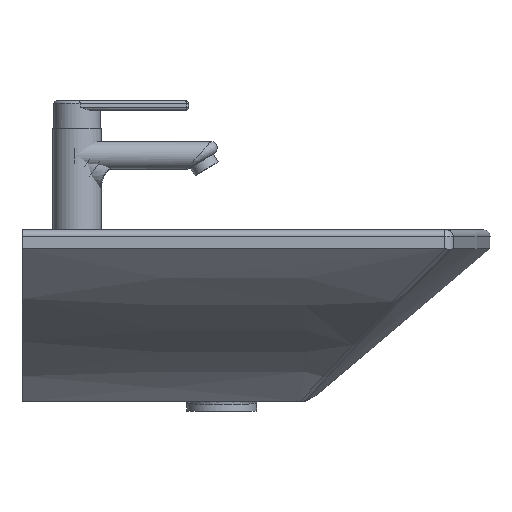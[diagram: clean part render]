
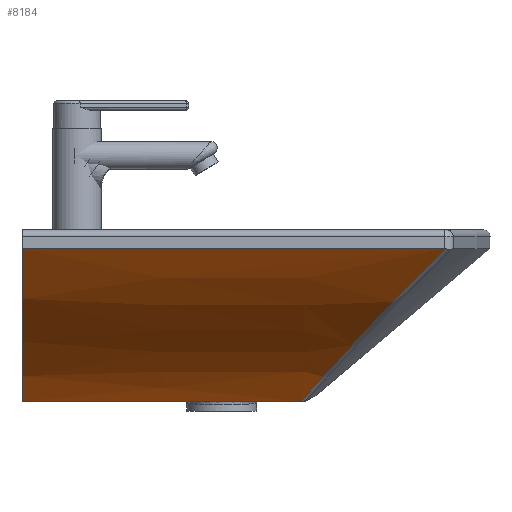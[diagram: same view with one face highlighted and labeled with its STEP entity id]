
A CAD part, left-side view. The second image highlights one B-rep face of the part: STEP entity #8184.
In plain terms, the highlighted free-form (B-spline) face has degree [3, 3] with [10, 4] control points.
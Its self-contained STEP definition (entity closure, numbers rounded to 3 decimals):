
#521=CARTESIAN_POINT('',(-111.343,0.,-164.579));
#522=VERTEX_POINT('',#521);
#532=CARTESIAN_POINT('',(-350.,0.0,0.0));
#533=VERTEX_POINT('',#532);
#534=CARTESIAN_POINT('',(36.624,0.0,305.317));
#535=DIRECTION('',(0.0,1.,0.0));
#536=DIRECTION('',(-0.298,0.0,-0.955));
#537=AXIS2_PLACEMENT_3D('',#534,#535,#536);
#538=CIRCLE('',#537,492.643);
#539=EDGE_CURVE('',#522,#533,#538,.T.);
#6153=CARTESIAN_POINT('',(-109.072,-300.052,-164.371));
#6154=VERTEX_POINT('',#6153);
#6230=CARTESIAN_POINT('',(-109.072,-300.052,-164.371));
#6231=CARTESIAN_POINT('',(-109.831,-200.035,-164.44));
#6232=CARTESIAN_POINT('',(-110.588,-100.017,-164.509));
#6233=CARTESIAN_POINT('',(-111.343,0.,-164.579));
#6234=B_SPLINE_CURVE_WITH_KNOTS('',3,(#6230,#6231,#6232,#6233),.UNSPECIFIED.,.F.,.U.,(4,4),(0.,30.006),.UNSPECIFIED.);
#6235=EDGE_CURVE('',#6154,#522,#6234,.T.);
#6509=CARTESIAN_POINT('',(-350.,-454.504,0.0));
#6510=VERTEX_POINT('',#6509);
#6517=CARTESIAN_POINT('',(-349.902,-455.902,-0.12));
#6518=VERTEX_POINT('',#6517);
#6519=CARTESIAN_POINT('',(-350.,-454.504,0.0));
#6520=CARTESIAN_POINT('',(-350.,-454.755,0.));
#6521=CARTESIAN_POINT('',(-349.991,-455.006,-0.012));
#6522=CARTESIAN_POINT('',(-349.955,-455.474,-0.055));
#6523=CARTESIAN_POINT('',(-349.932,-455.689,-0.083));
#6524=CARTESIAN_POINT('',(-349.902,-455.902,-0.12));
#6525=B_SPLINE_CURVE_WITH_KNOTS('',3,(#6519,#6520,#6521,#6522,#6523,#6524),.UNSPECIFIED.,.F.,.U.,(4,2,4),(-1.23,-1.141,-1.064),.UNSPECIFIED.);
#6526=EDGE_CURVE('',#6510,#6518,#6525,.T.);
#6903=CARTESIAN_POINT('',(-349.902,-455.902,-0.12));
#6904=CARTESIAN_POINT('',(-346.216,-451.367,-4.611));
#6905=CARTESIAN_POINT('',(-338.304,-441.996,-13.937));
#6906=CARTESIAN_POINT('',(-321.173,-423.282,-32.759));
#6907=CARTESIAN_POINT('',(-297.369,-400.408,-56.158));
#6908=CARTESIAN_POINT('',(-272.733,-380.63,-76.848));
#6909=CARTESIAN_POINT('',(-253.999,-367.376,-90.905));
#6910=CARTESIAN_POINT('',(-242.424,-359.699,-99.102));
#6911=CARTESIAN_POINT('',(-222.49,-347.324,-112.402));
#6912=CARTESIAN_POINT('',(-192.838,-331.284,-129.866));
#6913=CARTESIAN_POINT('',(-162.012,-318.011,-144.513));
#6914=CARTESIAN_POINT('',(-140.691,-310.176,-153.181));
#6915=CARTESIAN_POINT('',(-129.889,-306.465,-157.288));
#6916=CARTESIAN_POINT('',(-119.348,-303.089,-161.021));
#6917=CARTESIAN_POINT('',(-112.369,-301.004,-163.322));
#6918=CARTESIAN_POINT('',(-109.072,-300.052,-164.371));
#6919=B_SPLINE_CURVE_WITH_KNOTS('',3,(#6903,#6904,#6905,#6906,#6907,#6908,#6909,#6910,#6911,#6912,#6913,#6914,#6915,#6916,#6917,#6918),.UNSPECIFIED.,.F.,.U.,(4,1,1,1,1,1,1,1,1,1,1,1,1,4),(-33.244,-31.059,-28.676,-23.909,-19.143,-17.554,-15.965,-14.377,-9.61,-4.844,-3.652,-2.461,-1.269,-0.212),.UNSPECIFIED.);
#6920=EDGE_CURVE('',#6518,#6154,#6919,.T.);
#8131=CARTESIAN_POINT('',(-106.915,-455.911,-164.572));
#8132=CARTESIAN_POINT('',(-120.429,-455.911,-160.296));
#8133=CARTESIAN_POINT('',(-147.105,-455.911,-150.627));
#8134=CARTESIAN_POINT('',(-185.788,-455.911,-132.878));
#8135=CARTESIAN_POINT('',(-222.877,-455.911,-112.002));
#8136=CARTESIAN_POINT('',(-258.121,-455.911,-88.141));
#8137=CARTESIAN_POINT('',(-291.279,-455.911,-61.459));
#8138=CARTESIAN_POINT('',(-322.126,-455.911,-32.135));
#8139=CARTESIAN_POINT('',(-341.01,-455.911,-10.959));
#8140=CARTESIAN_POINT('',(-350.,-455.911,0.));
#8141=CARTESIAN_POINT('',(-108.391,-303.941,-164.575));
#8142=CARTESIAN_POINT('',(-121.855,-303.941,-160.321));
#8143=CARTESIAN_POINT('',(-148.43,-303.941,-150.689));
#8144=CARTESIAN_POINT('',(-186.949,-303.941,-132.97));
#8145=CARTESIAN_POINT('',(-223.857,-303.941,-112.104));
#8146=CARTESIAN_POINT('',(-258.899,-303.941,-88.235));
#8147=CARTESIAN_POINT('',(-291.83,-303.941,-61.53));
#8148=CARTESIAN_POINT('',(-322.42,-303.941,-32.173));
#8149=CARTESIAN_POINT('',(-341.112,-303.941,-10.972));
#8150=CARTESIAN_POINT('',(-350.,-303.941,0.));
#8151=CARTESIAN_POINT('',(-109.867,-151.97,-164.577));
#8152=CARTESIAN_POINT('',(-123.282,-151.97,-160.346));
#8153=CARTESIAN_POINT('',(-149.754,-151.97,-150.751));
#8154=CARTESIAN_POINT('',(-188.109,-151.97,-133.063));
#8155=CARTESIAN_POINT('',(-224.837,-151.97,-112.206));
#8156=CARTESIAN_POINT('',(-259.677,-151.97,-88.328));
#8157=CARTESIAN_POINT('',(-292.38,-151.97,-61.6));
#8158=CARTESIAN_POINT('',(-322.714,-151.97,-32.211));
#8159=CARTESIAN_POINT('',(-341.214,-151.97,-10.984));
#8160=CARTESIAN_POINT('',(-350.,-151.97,0.));
#8161=CARTESIAN_POINT('',(-111.343,0.0,-164.579));
#8162=CARTESIAN_POINT('',(-124.708,0.0,-160.371));
#8163=CARTESIAN_POINT('',(-151.079,0.0,-150.812));
#8164=CARTESIAN_POINT('',(-189.27,0.0,-133.156));
#8165=CARTESIAN_POINT('',(-225.817,0.0,-112.308));
#8166=CARTESIAN_POINT('',(-260.455,0.0,-88.422));
#8167=CARTESIAN_POINT('',(-292.931,0.0,-61.671));
#8168=CARTESIAN_POINT('',(-323.009,0.0,-32.249));
#8169=CARTESIAN_POINT('',(-341.316,0.0,-10.997));
#8170=CARTESIAN_POINT('',(-350.,0.0,0.));
#8171=B_SPLINE_SURFACE_WITH_KNOTS('',3,3,((#8131,#8141,#8151,#8161),(#8132,#8142,#8152,#8162),(#8133,#8143,#8153,#8163),(#8134,#8144,#8154,#8164),(#8135,#8145,#8155,#8165),(#8136,#8146,#8156,#8166),(#8137,#8147,#8157,#8167),(#8138,#8148,#8158,#8168),(#8139,#8149,#8159,#8169),(#8140,#8150,#8160,#8170)),.UNSPECIFIED.,.F.,.F.,.U.,(4,1,1,1,1,1,1,4),(4,4),(0.005,0.147,0.289,0.431,0.573,0.716,0.858,1.0),(0.106,1.0),.UNSPECIFIED.);
#8172=ORIENTED_EDGE('',*,*,#6235,.F.);
#8173=ORIENTED_EDGE('',*,*,#6920,.F.);
#8174=ORIENTED_EDGE('',*,*,#6526,.F.);
#8175=CARTESIAN_POINT('',(-350.,-454.504,0.0));
#8176=DIRECTION('',(0.0,1.0,0.0));
#8177=VECTOR('',#8176,454.504);
#8178=LINE('',#8175,#8177);
#8179=EDGE_CURVE('',#6510,#533,#8178,.T.);
#8180=ORIENTED_EDGE('',*,*,#8179,.T.);
#8181=ORIENTED_EDGE('',*,*,#539,.F.);
#8182=EDGE_LOOP('',(#8172,#8173,#8174,#8180,#8181));
#8183=FACE_OUTER_BOUND('',#8182,.T.);
#8184=ADVANCED_FACE('',(#8183),#8171,.T.);
